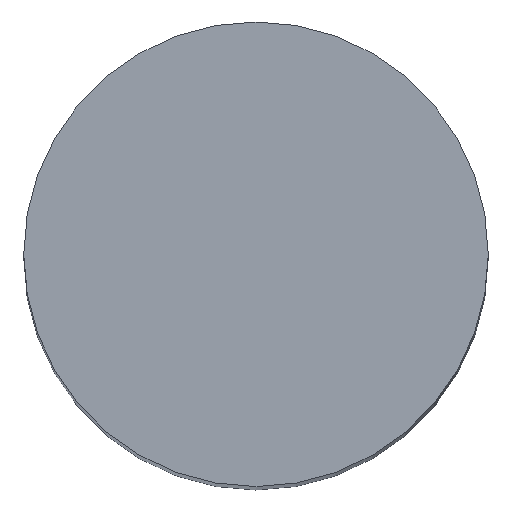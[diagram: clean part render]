
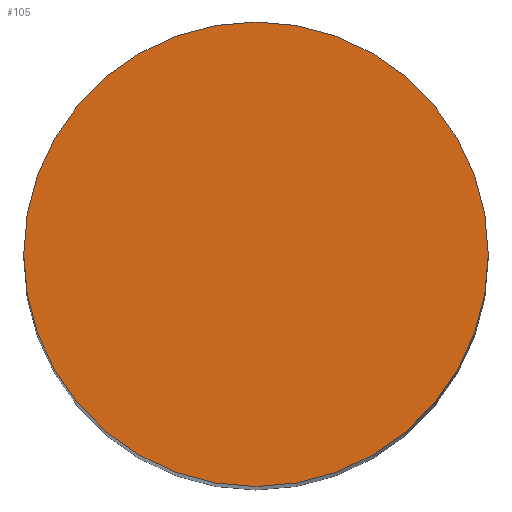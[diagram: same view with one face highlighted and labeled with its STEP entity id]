
A CAD part, top view. The second image highlights one B-rep face of the part: STEP entity #105.
In plain terms, the highlighted planar face has unit normal (0, 0, 1).
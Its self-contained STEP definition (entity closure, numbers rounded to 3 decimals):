
#21 = EDGE_CURVE('',#22,#22,#24,.T.);
#22 = VERTEX_POINT('',#23);
#23 = CARTESIAN_POINT('',(73.5,116.913,177.));
#24 = SURFACE_CURVE('',#25,(#30,#42),.PCURVE_S1.);
#25 = CIRCLE('',#26,6.);
#26 = AXIS2_PLACEMENT_3D('',#27,#28,#29);
#27 = CARTESIAN_POINT('',(67.5,116.913,177.));
#28 = DIRECTION('',(0.,0.,1.));
#29 = DIRECTION('',(1.,0.,-0.));
#30 = PCURVE('',#31,#36);
#31 = CYLINDRICAL_SURFACE('',#32,6.);
#32 = AXIS2_PLACEMENT_3D('',#33,#34,#35);
#33 = CARTESIAN_POINT('',(67.5,116.913,126.));
#34 = DIRECTION('',(0.,0.,1.));
#35 = DIRECTION('',(1.,0.,-0.));
#36 = DEFINITIONAL_REPRESENTATION('',(#37),#41);
#37 = LINE('',#38,#39);
#38 = CARTESIAN_POINT('',(0.,51.));
#39 = VECTOR('',#40,1.);
#40 = DIRECTION('',(1.,0.));
#41 = ( GEOMETRIC_REPRESENTATION_CONTEXT(2) 
PARAMETRIC_REPRESENTATION_CONTEXT() REPRESENTATION_CONTEXT('2D SPACE',''
  ) );
#42 = PCURVE('',#43,#48);
#43 = PLANE('',#44);
#44 = AXIS2_PLACEMENT_3D('',#45,#46,#47);
#45 = CARTESIAN_POINT('',(67.5,116.913,177.));
#46 = DIRECTION('',(0.,0.,1.));
#47 = DIRECTION('',(1.,0.,-0.));
#48 = DEFINITIONAL_REPRESENTATION('',(#49),#53);
#49 = CIRCLE('',#50,6.);
#50 = AXIS2_PLACEMENT_2D('',#51,#52);
#51 = CARTESIAN_POINT('',(0.,0.));
#52 = DIRECTION('',(1.,0.));
#53 = ( GEOMETRIC_REPRESENTATION_CONTEXT(2) 
PARAMETRIC_REPRESENTATION_CONTEXT() REPRESENTATION_CONTEXT('2D SPACE',''
  ) );
#105 = ADVANCED_FACE('',(#106),#43,.T.);
#106 = FACE_BOUND('',#107,.T.);
#107 = EDGE_LOOP('',(#108));
#108 = ORIENTED_EDGE('',*,*,#21,.T.);
